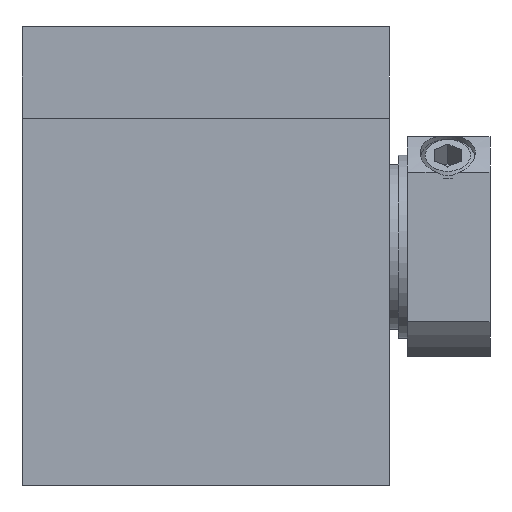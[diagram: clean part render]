
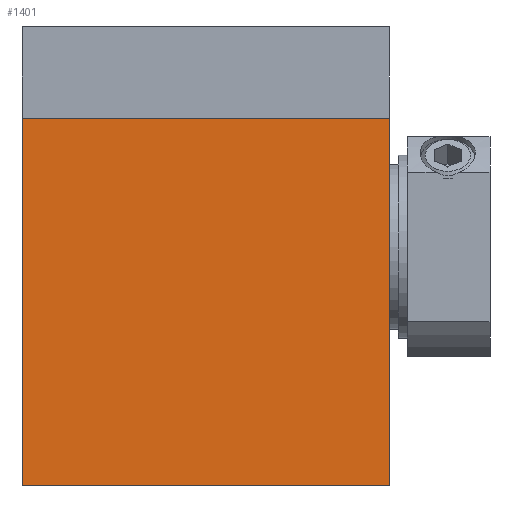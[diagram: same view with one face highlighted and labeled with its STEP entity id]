
A CAD part, front view. The second image highlights one B-rep face of the part: STEP entity #1401.
In plain terms, the highlighted planar face has unit normal (0, -1, 0).
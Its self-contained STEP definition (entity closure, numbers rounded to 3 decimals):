
#1147=CARTESIAN_POINT('',(-20.0,-21.,-13.));
#1148=VERTEX_POINT('',#1147);
#1165=CARTESIAN_POINT('',(0.0,-21.,-13.));
#1166=VERTEX_POINT('',#1165);
#1173=CARTESIAN_POINT('',(0.0,-21.,-13.));
#1174=DIRECTION('',(-1.0,0.0,0.0));
#1175=VECTOR('',#1174,20.0);
#1176=LINE('',#1173,#1175);
#1177=EDGE_CURVE('',#1166,#1148,#1176,.T.);
#1351=CARTESIAN_POINT('',(-20.0,-21.0,7.));
#1352=VERTEX_POINT('',#1351);
#1359=CARTESIAN_POINT('',(0.0,-21.0,7.));
#1360=VERTEX_POINT('',#1359);
#1361=CARTESIAN_POINT('',(0.0,-21.0,7.));
#1362=DIRECTION('',(-1.0,0.0,0.0));
#1363=VECTOR('',#1362,20.0);
#1364=LINE('',#1361,#1363);
#1365=EDGE_CURVE('',#1360,#1352,#1364,.T.);
#1380=CARTESIAN_POINT('',(0.0,-21.0,7.));
#1381=DIRECTION('',(0.0,-1.0,0.0));
#1382=DIRECTION('',(0.0,0.0,-1.0));
#1383=AXIS2_PLACEMENT_3D('',#1380,#1381,#1382);
#1384=PLANE('',#1383);
#1385=CARTESIAN_POINT('',(-20.0,-21.0,7.));
#1386=DIRECTION('',(0.0,0.0,-1.0));
#1387=VECTOR('',#1386,20.);
#1388=LINE('',#1385,#1387);
#1389=EDGE_CURVE('',#1352,#1148,#1388,.T.);
#1390=ORIENTED_EDGE('',*,*,#1389,.T.);
#1391=ORIENTED_EDGE('',*,*,#1177,.F.);
#1392=CARTESIAN_POINT('',(0.0,-21.0,7.));
#1393=DIRECTION('',(0.0,0.0,-1.0));
#1394=VECTOR('',#1393,20.);
#1395=LINE('',#1392,#1394);
#1396=EDGE_CURVE('',#1360,#1166,#1395,.T.);
#1397=ORIENTED_EDGE('',*,*,#1396,.F.);
#1398=ORIENTED_EDGE('',*,*,#1365,.T.);
#1399=EDGE_LOOP('',(#1390,#1391,#1397,#1398));
#1400=FACE_OUTER_BOUND('',#1399,.T.);
#1401=ADVANCED_FACE('',(#1400),#1384,.T.);
